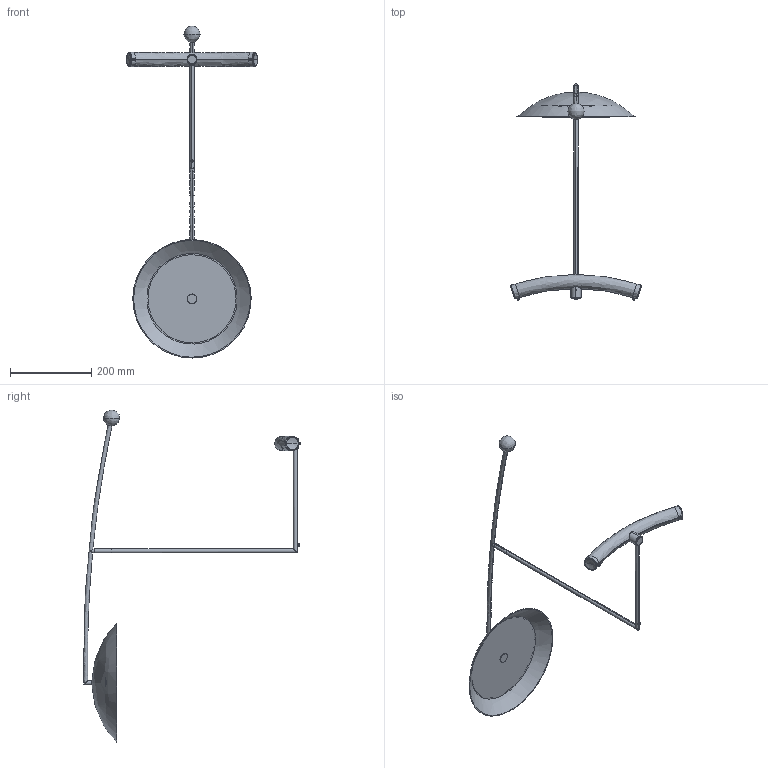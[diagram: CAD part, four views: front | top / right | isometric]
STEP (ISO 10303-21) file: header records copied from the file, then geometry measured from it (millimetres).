
FILE_DESCRIPTION (( 'STEP AP203' ), '1' );
FILE_NAME ('ORBIT.STEP', '2022-11-28T15:55:52', ( '' ), ( '' ), 'SwSTEP 2.0', 'SolidWorks 2014', '' );
FILE_SCHEMA (( 'CONFIG_CONTROL_DESIGN' ));
Length unit declared in the file: millimetre
Products named in the file (1): ORBIT
Bounding box: 323.52 x 534.31 x 819.38 mm (x, y, z)
Volume: 398860.1 mm3; surface area: 379373.7 mm2
Topology: 13 solids, 13 shells, 196 faces, 451 edges, 270 vertices
Faces by surface type: plane 87, cylinder 61, bspline 44, cone 2, torus 2
Entity records: 8276 total; most frequent: CARTESIAN_POINT 4089, ORIENTED_EDGE 858, DIRECTION 835, EDGE_CURVE 429, AXIS2_PLACEMENT_3D 328, VERTEX_POINT 270, EDGE_LOOP 211, ADVANCED_FACE 196
